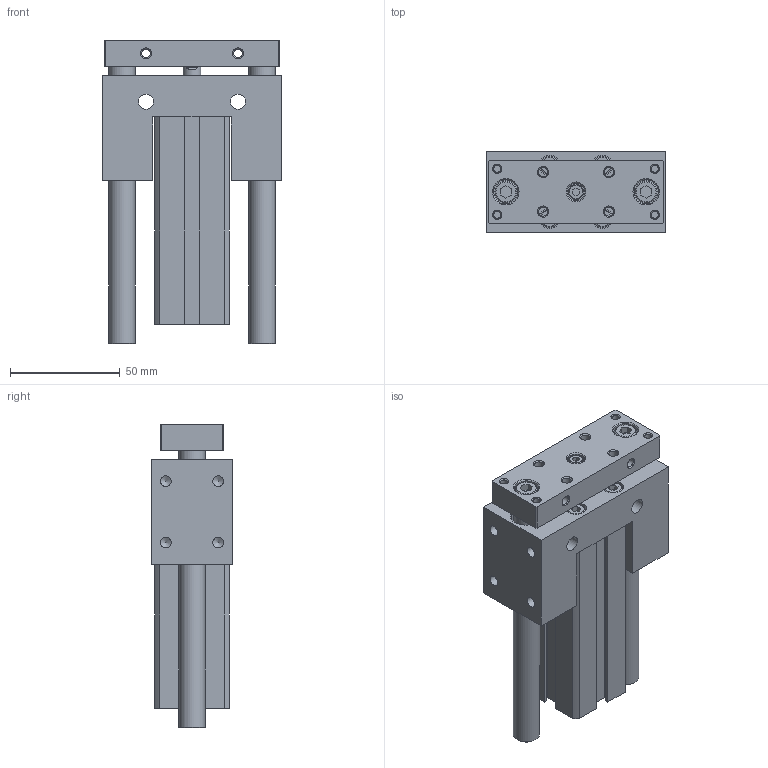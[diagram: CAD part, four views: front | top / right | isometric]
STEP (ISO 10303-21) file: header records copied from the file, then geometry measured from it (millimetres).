
FILE_DESCRIPTION((''),'2;1');
FILE_NAME('I:\3D電子目錄\氣缸\JCB\JCB\JCB20\JCB20x75.stp','2007-08-21T18:19:25',('Administrator'),(''),'Autodesk Inventor 11','Autodesk Inventor 11','');
FILE_SCHEMA(('AUTOMOTIVE_DESIGN { 1 0 10303 214 1 1 1 1 }'));
Length unit declared in the file: millimetre
Products named in the file (1): JCB20
Bounding box: 82 x 37 x 138.5 mm (x, y, z)
Volume: 229254.6 mm3; surface area: 72060.6 mm2
Topology: 5 solids, 5 shells, 293 faces, 643 edges, 415 vertices
Faces by surface type: plane 150, bspline 53, cylinder 45, cone 37, torus 8
Full cylindrical faces by diameter (mm): 1.5 x2, 4.3 x4, 4.917 x4, 7 x9, 8 x1, 8.5 x4, 9 x1, 10 x2, 12 x2, 13 x2, 14 x2, 22 x4, 23.2 x2
Entity records: 7875 total; most frequent: CARTESIAN_POINT 1985, DIRECTION 1184, ORIENTED_EDGE 992, EDGE_LOOP 504, EDGE_CURVE 496, AXIS2_PLACEMENT_3D 447, VERTEX_POINT 394, FACE_OUTER_BOUND 293
